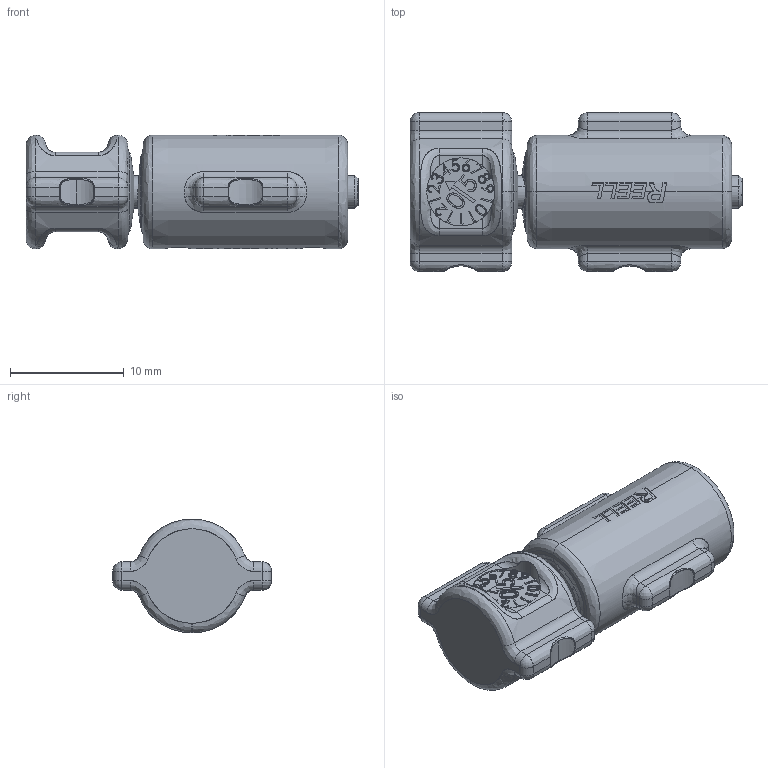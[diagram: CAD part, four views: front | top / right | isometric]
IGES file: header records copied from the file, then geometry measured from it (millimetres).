
Start section: SolidWorks IGES file using analytic representation for surfaces
Global section: file name: G:\RELEASED\FINALS\20-XXX TI-120\Reell_TI-120-X.XX-02.IGS; native system: SolidWorks 2015; preprocessor: SolidWorks 2015; author: hmanderson; date: 150910.095323; units: inch
Bounding box: 29.22 x 14 x 10 mm (x, y, z)
Surface area: 1682.5 mm2 (no closed solid volume)
Topology: 0 solids, 0 shells, 822 faces, 8242 edges, 8229 vertices
Faces by surface type: bspline 678, revolution 144
